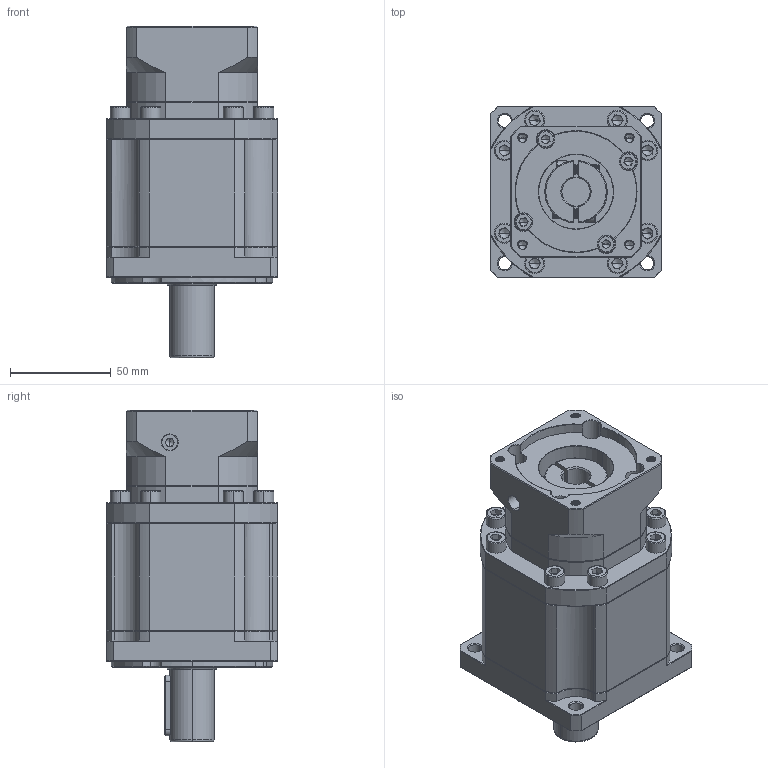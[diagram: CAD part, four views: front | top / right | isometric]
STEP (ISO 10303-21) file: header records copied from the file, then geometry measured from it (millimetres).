
FILE_DESCRIPTION (( 'STEP AP214' ), '1' );
FILE_NAME ('ZB090-D22-L3-P2-14-60-75-M5.step', '2023-08-18T13:38:31', ( '' ), ( '' ), 'SwSTEP 2.0', 'SolidWorks 2016', '' );
FILE_SCHEMA (( 'AUTOMOTIVE_DESIGN' ));
Length unit declared in the file: millimetre
Products named in the file (1): ZB090-D22-L3-P2-14-60-75-M5
Bounding box: 85 x 85 x 164.5 mm (x, y, z)
Volume: 662352.5 mm3; surface area: 82607.7 mm2
Topology: 6 solids, 6 shells, 2368 faces, 6304 edges, 4028 vertices
Faces by surface type: plane 1185, bspline 426, cylinder 409, cone 326, torus 22
Entity records: 126424 total; most frequent: CARTESIAN_POINT 44812, ORIENTED_EDGE 12516, DIRECTION 9990, EDGE_CURVE 6258, VERTEX_POINT 4028, VECTOR 3952, LINE 3952, AXIS2_PLACEMENT_3D 3019
